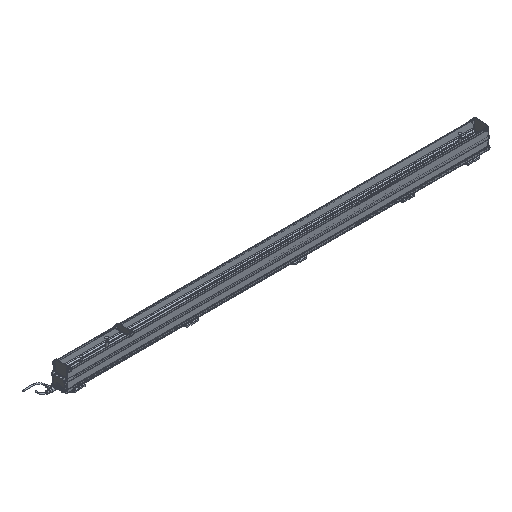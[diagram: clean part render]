
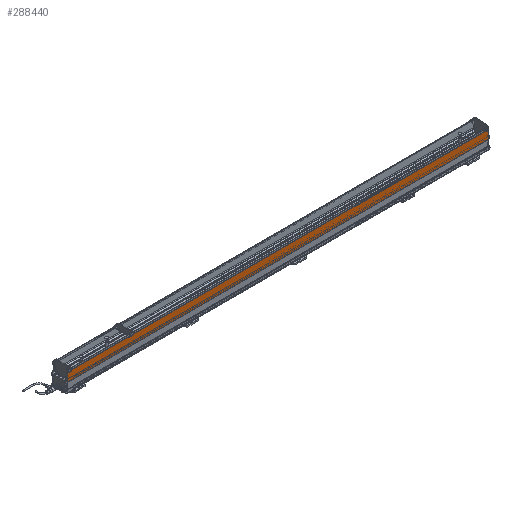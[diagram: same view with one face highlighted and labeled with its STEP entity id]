
A CAD part, isometric view. The second image highlights one B-rep face of the part: STEP entity #288440.
In plain terms, the highlighted planar face has unit normal (0, -1, 0) as drawn and (0, 1, 0) by its records, which use the part's own axes.
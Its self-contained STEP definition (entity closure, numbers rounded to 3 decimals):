
#103021=ORIENTED_EDGE('',*,*,#146657,.F.);
#103022=ORIENTED_EDGE('',*,*,#146622,.F.);
#103023=ORIENTED_EDGE('',*,*,#146656,.F.);
#103024=ORIENTED_EDGE('',*,*,#146561,.F.);
#125961=VECTOR('',#169133,1.);
#125988=VECTOR('',#169234,1.);
#126018=VECTOR('',#169328,1.);
#126019=VECTOR('',#169331,1.);
#132538=LINE('',#192981,#125961);
#132565=LINE('',#193104,#125988);
#132595=LINE('',#193170,#126018);
#132596=LINE('',#193172,#126019);
#139126=VERTEX_POINT('',#192978);
#139127=VERTEX_POINT('',#192980);
#139185=VERTEX_POINT('',#193101);
#139186=VERTEX_POINT('',#193103);
#146561=EDGE_CURVE('',#139126,#139127,#132538,.T.);
#146622=EDGE_CURVE('',#139185,#139186,#132565,.T.);
#146656=EDGE_CURVE('',#139127,#139185,#132595,.T.);
#146657=EDGE_CURVE('',#139186,#139126,#132596,.T.);
#158158=EDGE_LOOP('',(#103021,#103022,#103023,#103024));
#163546=FACE_BOUND('',#158158,.T.);
#169133=DIRECTION('',(36.287,0.,0.));
#169234=DIRECTION('',(-36.287,0.,0.));
#169328=DIRECTION('',(0.,0.,1785.));
#169329=DIRECTION('',(0.,1.,0.));
#169330=DIRECTION('',(1.,0.,0.));
#169331=DIRECTION('',(0.,0.,-1785.));
#192978=CARTESIAN_POINT('',(-29.322,15.,-1660.));
#192980=CARTESIAN_POINT('',(6.965,15.,-1660.));
#192981=CARTESIAN_POINT('',(-29.322,15.,-1660.));
#193101=CARTESIAN_POINT('',(6.965,15.,125.));
#193103=CARTESIAN_POINT('',(-29.322,15.,125.));
#193104=CARTESIAN_POINT('',(6.965,15.,125.));
#193170=CARTESIAN_POINT('',(6.965,15.,-1660.));
#193171=CARTESIAN_POINT('',(-29.322,15.,125.));
#193172=CARTESIAN_POINT('',(-29.322,15.,125.));
#277836=AXIS2_PLACEMENT_3D('',#193171,#169329,#169330);
#286351=PLANE('',#277836);
#288440=ADVANCED_FACE('',(#163546),#286351,.T.);
